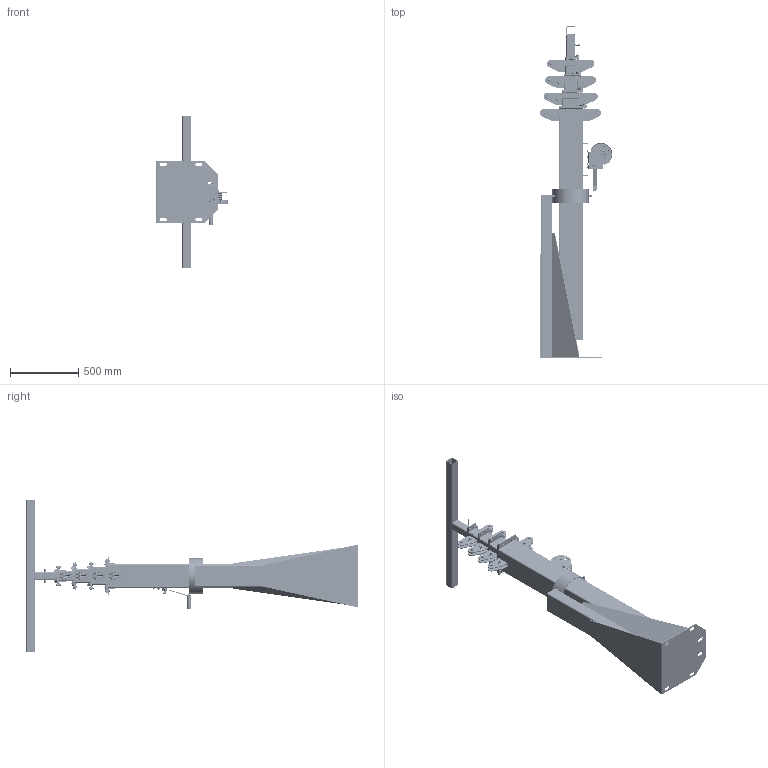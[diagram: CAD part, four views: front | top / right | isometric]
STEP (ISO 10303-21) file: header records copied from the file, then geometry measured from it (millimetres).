
FILE_DESCRIPTION (( 'STEP AP214' ), '1' );
FILE_NAME ('LM-24-8-5S-FM.STEP', '2018-10-12T14:59:18', ( '' ), ( '' ), 'SwSTEP 2.0', 'SolidWorks 2016', '' );
FILE_SCHEMA (( 'AUTOMOTIVE_DESIGN' ));
Length unit declared in the file: inch
Products named in the file (102): 404164 Ratchet wheel; 3 to 4 End Cap Assembly; 204364 Spring; 2x2 Angle End Cap Mount_7in; Stage 3 - 4x4_LM-24-8; 204362 Pressure Plate; 3in to 4in Top; 204360 Space Washer; Bottom Cap Assembly_7in; Stage 2 - 5x5 Assembly_LM-24-8; 205116 E-Ring 5; 3in to 4in Bottom; 204807 Steel Spacer; hex bolt_ai_HBOLT 0.7500-10x3x1.75-N; LM-30-9-5S Stage 2 Rod; 204012 Bushing; 2 to 3 End Cap Assembly; Reel Assembly; Bottom Cap_7in; 5-7 c-ring; Drive Shaft Assembly; hex bolt_ai_HBOLT 0.3125-18x1.125x0.875-N; 204834 2.2 Reel Hub; Stage 1 - 7x7_LM-24-8-FM; 2x2 Angle End Cap Mount_5in; 404842 Toothgear 10; 404862 54 Tooth Gear; hex nut_ai_HNUT 0.7500-10-B-N; 18x18 5S-FM Base_FM 10in; Stage 2 - 5x5_LM-24-8; 206552 Space Washer; hex bolt_ai_HBOLT 0.3125-18x1.5x0.875-N; 404298 Side Plate Gear; flat washer type b regular_ai_Regular FW 0.75; hex nut_ai_HNUT 0.3125-18-D-N; Stage 1 - 7x7 Assembly_LM-24-8-FM; 404165 Washer; 2in to 3in Top; 404453 Side Plate Reel; 18x18 FM 10in Mast Support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
Assembly tree (246 placements, depth 6):
  LM-24-8-5S-FM
    18x18 5S-FM Base_FM 10in
      18x18 Base Plate_FM
      5S Base C Channel_FM
      5S Base Gusset_FM Gusset  x2
      5S Outer Ring
      18x18 FM 10in Ring Holder
      18x18 FM 10in Mast Support
      hex nut_ai_HNUT 0.3125-18-D-N
    LM-5S Mast Assembly_LM-24-8-FM
      Stage 1 - 7x7 Assembly_LM-24-8-FM
        Stage 1 - 7x7_LM-24-8-FM
        Bottom Cap Assembly_7in
          Bottom Cap_7in
          hex bolt_ai_HBOLT 0.7500-10x3x1.75-N
        2x2 Angle End Cap Mount_7in  x2
        3.5in Pulley Bracket Assembly  x2
          CM Large Pulley Bracket
          flat washer type b regular_ai_Regular FW 0.5
          hex nut_ai_HNUT 0.5000-13-D-N
          hex bolt_ai_HBOLT 0.5000-13x2x1.25-N
          Large Pulley
        3.5in Pulley Bracket Assembly_Opposite
          CM Large Pulley Bracket  x2
          flat washer type b regular_ai_Regular FW 0.5  x4
          hex nut_ai_HNUT 0.5000-13-D-N  x2
          hex bolt_ai_HBOLT 0.5000-13x2x1.25-N  x2
          Large Pulley
        4in Winch Bracket 6 Hole
          4in Winch Bracket 6 Hole
          hex nut_ai_HNUT 0.3125-18-D-N  x6
        DLB1200A
          404896 Base
          Drive Shaft Assembly
            404156 Drive Shaft
            404165 Washer
            206552 Space Washer
            404842 Toothgear 10  x4
          204012 Bushing
          205116 E-Ring 5
          204362 Pressure Plate
          404164 Ratchet wheel
          404163 Pressure Washer
          206328 Bushing
          404162 Handle Hub with handle
          204005 Crank Handle Pin
          204004 Handle Sleeve
          205167 Ratchet Bolt
          205055 Flat Washer
          404409 Ratchet Pawl
          404166 Ratchet Spacer
          204803 Lock Nut 3.8 16  x2
          Reel Assembly
            404185 Reel Hub
            404453 Side Plate Reel
            404298 Side Plate Gear
            404862 54 Tooth Gear  x2
            204834 2.2 Reel Hub
          204807 Steel Spacer
          204360 Space Washer  x2
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Bounding box: 534.3 x 2438.4 x 1117.6 mm (x, y, z)
Volume: 27980612.6 mm3; surface area: 12221345.1 mm2
Topology: 297 solids, 300 shells, 6969 faces, 17453 edges, 11130 vertices
Faces by surface type: cylinder 3393, plane 2092, cone 1309, bspline 175
Entity records: 161086 total; most frequent: CARTESIAN_POINT 64004, DIRECTION 15667, ORIENTED_EDGE 14707, EDGE_CURVE 7374, AXIS2_PLACEMENT_3D 6175, VERTEX_POINT 4823, LINE 3317, VECTOR 3317
